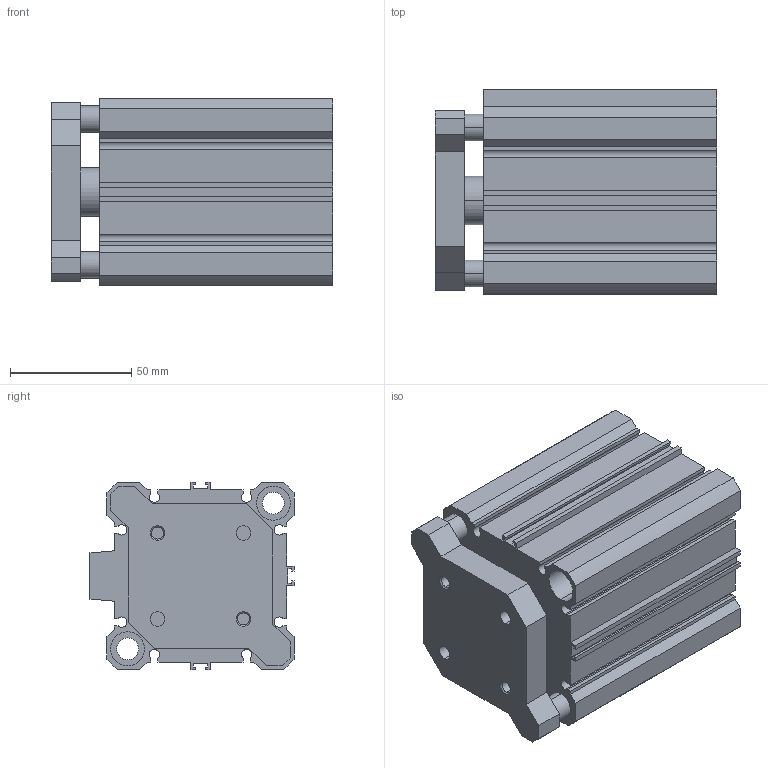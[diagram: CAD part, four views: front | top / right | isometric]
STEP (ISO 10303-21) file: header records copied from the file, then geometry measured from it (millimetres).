
FILE_DESCRIPTION (( 'STEP AP203' ), '1' );
FILE_NAME ('CCMG63-50.STEP', '2020-04-01T18:49:55', ( '' ), ( '' ), 'SwSTEP 2.0', 'SolidWorks 2019', '' );
FILE_SCHEMA (( 'CONFIG_CONTROL_DESIGN' ));
Length unit declared in the file: millimetre
Products named in the file (1): CCMG63-50
Bounding box: 116 x 84 x 77 mm (x, y, z)
Volume: 410052.1 mm3; surface area: 112723.6 mm2
Topology: 2 solids, 2 shells, 194 faces, 518 edges, 338 vertices
Faces by surface type: plane 114, cylinder 64, cone 16
Entity records: 6105 total; most frequent: CARTESIAN_POINT 1047, DIRECTION 1044, ORIENTED_EDGE 1028, EDGE_CURVE 514, LINE 374, VECTOR 374, VERTEX_POINT 338, AXIS2_PLACEMENT_3D 335
